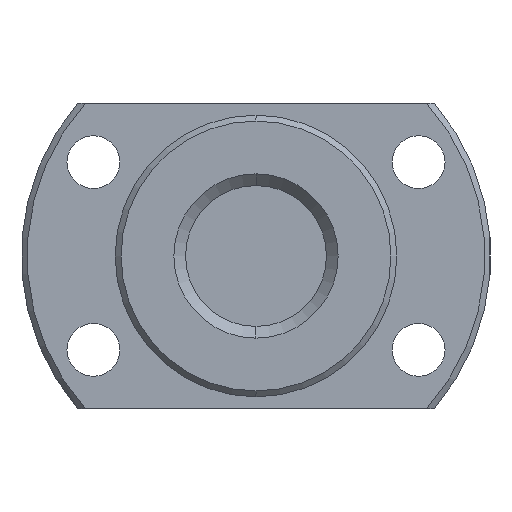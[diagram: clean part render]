
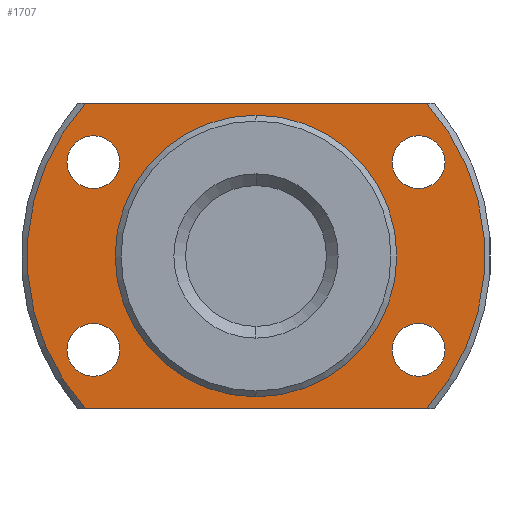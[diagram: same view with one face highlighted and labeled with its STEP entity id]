
A CAD part, left-side view. The second image highlights one B-rep face of the part: STEP entity #1707.
In plain terms, the highlighted planar face has unit normal (-1, 0, 0) as drawn and (1, 0, 0) by its records, which use the part's own axes.
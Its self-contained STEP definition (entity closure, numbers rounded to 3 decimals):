
#2 = EDGE_LOOP ( 'NONE', ( #1019, #780 ) ) ;
#16 = CARTESIAN_POINT ( 'NONE',  ( 8., 13.856, -5.75 ) ) ;
#18 = VERTEX_POINT ( 'NONE', #973 ) ;
#34 = AXIS2_PLACEMENT_3D ( 'NONE', #1402, #1129, #1681 ) ;
#54 = CARTESIAN_POINT ( 'NONE',  ( 8., 13.856, -10.25 ) ) ;
#111 = ORIENTED_EDGE ( 'NONE', *, *, #870, .T. ) ;
#115 = CARTESIAN_POINT ( 'NONE',  ( 8., 0., -12. ) ) ;
#134 = ORIENTED_EDGE ( 'NONE', *, *, #1159, .T. ) ;
#141 = ORIENTED_EDGE ( 'NONE', *, *, #988, .T. ) ;
#165 = ORIENTED_EDGE ( 'NONE', *, *, #1169, .T. ) ;
#170 = DIRECTION ( 'NONE',  ( 0., 1., 0. ) ) ;
#173 = CIRCLE ( 'NONE', #34, 12. ) ;
#181 = AXIS2_PLACEMENT_3D ( 'NONE', #1236, #1532, #350 ) ;
#188 = DIRECTION ( 'NONE',  ( 0., 0., -1. ) ) ;
#198 = CIRCLE ( 'NONE', #616, 2.25 ) ;
#227 = DIRECTION ( 'NONE',  ( 0., 0., -1. ) ) ;
#236 = AXIS2_PLACEMENT_3D ( 'NONE', #280, #1349, #1500 ) ;
#240 = CARTESIAN_POINT ( 'NONE',  ( 8., -13.856, 10.25 ) ) ;
#271 = DIRECTION ( 'NONE',  ( 1., 0., 0. ) ) ;
#280 = CARTESIAN_POINT ( 'NONE',  ( 8., 0., 0. ) ) ;
#288 = EDGE_CURVE ( 'NONE', #1345, #1205, #289, .T. ) ;
#289 = LINE ( 'NONE', #930, #781 ) ;
#319 = VERTEX_POINT ( 'NONE', #16 ) ;
#350 = DIRECTION ( 'NONE',  ( 0., 1., 0. ) ) ;
#375 = EDGE_LOOP ( 'NONE', ( #134, #576, #764, #660 ) ) ;
#379 = CARTESIAN_POINT ( 'NONE',  ( 8., 0., 0. ) ) ;
#404 = CARTESIAN_POINT ( 'NONE',  ( 8., -15.805, -6.875 ) ) ;
#439 = CARTESIAN_POINT ( 'NONE',  ( 8., -11.908, -9.125 ) ) ;
#447 = CARTESIAN_POINT ( 'NONE',  ( 8., 13.856, -8. ) ) ;
#466 = AXIS2_PLACEMENT_3D ( 'NONE', #1460, #1688, #1322 ) ;
#471 = DIRECTION ( 'NONE',  ( 0., 0., -1. ) ) ;
#474 = AXIS2_PLACEMENT_3D ( 'NONE', #1224, #575, #188 ) ;
#487 = CARTESIAN_POINT ( 'NONE',  ( 8., 14.534, 13. ) ) ;
#512 = CIRCLE ( 'NONE', #236, 19.5 ) ;
#522 = CIRCLE ( 'NONE', #1704, 2.25 ) ;
#529 = AXIS2_PLACEMENT_3D ( 'NONE', #1579, #1037, #574 ) ;
#555 = VERTEX_POINT ( 'NONE', #1253 ) ;
#574 = DIRECTION ( 'NONE',  ( 0., 0., -1. ) ) ;
#575 = DIRECTION ( 'NONE',  ( -1., 0., 0. ) ) ;
#576 = ORIENTED_EDGE ( 'NONE', *, *, #288, .T. ) ;
#586 = CARTESIAN_POINT ( 'NONE',  ( 8., -14.534, 13. ) ) ;
#594 = FACE_BOUND ( 'NONE', #1636, .T. ) ;
#611 = CARTESIAN_POINT ( 'NONE',  ( 8., 13.856, -8. ) ) ;
#613 = VERTEX_POINT ( 'NONE', #404 ) ;
#616 = AXIS2_PLACEMENT_3D ( 'NONE', #743, #1395, #471 ) ;
#617 = FACE_BOUND ( 'NONE', #951, .T. ) ;
#628 = DIRECTION ( 'NONE',  ( 0., 0., -1. ) ) ;
#660 = ORIENTED_EDGE ( 'NONE', *, *, #849, .T. ) ;
#661 = CARTESIAN_POINT ( 'NONE',  ( 8., 0., 0. ) ) ;
#716 = DIRECTION ( 'NONE',  ( -1., 0., 0. ) ) ;
#743 = CARTESIAN_POINT ( 'NONE',  ( 8., -13.856, 8. ) ) ;
#753 = CIRCLE ( 'NONE', #1359, 2.25 ) ;
#764 = ORIENTED_EDGE ( 'NONE', *, *, #1577, .T. ) ;
#780 = ORIENTED_EDGE ( 'NONE', *, *, #1462, .F. ) ;
#781 = VECTOR ( 'NONE', #1068, 1000. ) ;
#798 = CARTESIAN_POINT ( 'NONE',  ( 8., -14.534, -13. ) ) ;
#801 = EDGE_CURVE ( 'NONE', #842, #613, #1416, .T. ) ;
#814 = EDGE_CURVE ( 'NONE', #1690, #319, #1552, .T. ) ;
#817 = LINE ( 'NONE', #840, #1634 ) ;
#840 = CARTESIAN_POINT ( 'NONE',  ( 8., 12., -13. ) ) ;
#842 = VERTEX_POINT ( 'NONE', #439 ) ;
#849 = EDGE_CURVE ( 'NONE', #1080, #1653, #817, .T. ) ;
#851 = FACE_BOUND ( 'NONE', #1215, .T. ) ;
#870 = EDGE_CURVE ( 'NONE', #555, #1077, #881, .T. ) ;
#881 = CIRCLE ( 'NONE', #1306, 2.25 ) ;
#900 = ORIENTED_EDGE ( 'NONE', *, *, #1032, .T. ) ;
#924 = AXIS2_PLACEMENT_3D ( 'NONE', #379, #271, #1549 ) ;
#930 = CARTESIAN_POINT ( 'NONE',  ( 8., 12., 13. ) ) ;
#951 = EDGE_LOOP ( 'NONE', ( #111, #141 ) ) ;
#956 = EDGE_CURVE ( 'NONE', #1455, #18, #173, .T. ) ;
#971 = EDGE_LOOP ( 'NONE', ( #1386, #165 ) ) ;
#973 = CARTESIAN_POINT ( 'NONE',  ( 8., 0., 12. ) ) ;
#988 = EDGE_CURVE ( 'NONE', #1077, #555, #198, .T. ) ;
#1005 = FACE_BOUND ( 'NONE', #2, .T. ) ;
#1019 = ORIENTED_EDGE ( 'NONE', *, *, #956, .F. ) ;
#1032 = EDGE_CURVE ( 'NONE', #1698, #1287, #1501, .T. ) ;
#1037 = DIRECTION ( 'NONE',  ( -1., 0., 0. ) ) ;
#1040 = CIRCLE ( 'NONE', #466, 2.25 ) ;
#1068 = DIRECTION ( 'NONE',  ( 0., -1., 0. ) ) ;
#1071 = ORIENTED_EDGE ( 'NONE', *, *, #814, .T. ) ;
#1074 = EDGE_CURVE ( 'NONE', #1287, #1698, #1040, .T. ) ;
#1077 = VERTEX_POINT ( 'NONE', #240 ) ;
#1080 = VERTEX_POINT ( 'NONE', #798 ) ;
#1084 = DIRECTION ( 'NONE',  ( 0., 0., -1. ) ) ;
#1122 = CIRCLE ( 'NONE', #1265, 19.5 ) ;
#1129 = DIRECTION ( 'NONE',  ( 1., 0., 0. ) ) ;
#1135 = CARTESIAN_POINT ( 'NONE',  ( 8., 11.908, 9.125 ) ) ;
#1159 = EDGE_CURVE ( 'NONE', #1653, #1345, #1122, .T. ) ;
#1161 = AXIS2_PLACEMENT_3D ( 'NONE', #447, #1631, #1084 ) ;
#1169 = EDGE_CURVE ( 'NONE', #613, #842, #522, .T. ) ;
#1205 = VERTEX_POINT ( 'NONE', #586 ) ;
#1215 = EDGE_LOOP ( 'NONE', ( #1667, #1071 ) ) ;
#1224 = CARTESIAN_POINT ( 'NONE',  ( 8., -13.856, -8. ) ) ;
#1236 = CARTESIAN_POINT ( 'NONE',  ( 8., 12., 0. ) ) ;
#1253 = CARTESIAN_POINT ( 'NONE',  ( 8., -13.856, 5.75 ) ) ;
#1265 = AXIS2_PLACEMENT_3D ( 'NONE', #661, #1589, #1380 ) ;
#1283 = CARTESIAN_POINT ( 'NONE',  ( 8., 15.805, 6.875 ) ) ;
#1287 = VERTEX_POINT ( 'NONE', #1283 ) ;
#1303 = EDGE_CURVE ( 'NONE', #319, #1690, #753, .T. ) ;
#1306 = AXIS2_PLACEMENT_3D ( 'NONE', #1381, #716, #628 ) ;
#1322 = DIRECTION ( 'NONE',  ( 0., 0., -1. ) ) ;
#1345 = VERTEX_POINT ( 'NONE', #487 ) ;
#1349 = DIRECTION ( 'NONE',  ( 1., 0., 0. ) ) ;
#1359 = AXIS2_PLACEMENT_3D ( 'NONE', #611, #1387, #227 ) ;
#1361 = CARTESIAN_POINT ( 'NONE',  ( 8., -13.856, -8. ) ) ;
#1377 = PLANE ( 'NONE',  #181 ) ;
#1380 = DIRECTION ( 'NONE',  ( 0., 0., -1. ) ) ;
#1381 = CARTESIAN_POINT ( 'NONE',  ( 8., -13.856, 8. ) ) ;
#1386 = ORIENTED_EDGE ( 'NONE', *, *, #801, .T. ) ;
#1387 = DIRECTION ( 'NONE',  ( -1., 0., 0. ) ) ;
#1395 = DIRECTION ( 'NONE',  ( -1., 0., 0. ) ) ;
#1402 = CARTESIAN_POINT ( 'NONE',  ( 8., 0., 0. ) ) ;
#1416 = CIRCLE ( 'NONE', #474, 2.25 ) ;
#1455 = VERTEX_POINT ( 'NONE', #115 ) ;
#1460 = CARTESIAN_POINT ( 'NONE',  ( 8., 13.856, 8. ) ) ;
#1462 = EDGE_CURVE ( 'NONE', #18, #1455, #1538, .T. ) ;
#1477 = CARTESIAN_POINT ( 'NONE',  ( 8., 14.534, -13. ) ) ;
#1488 = DIRECTION ( 'NONE',  ( 0., 0., -1. ) ) ;
#1500 = DIRECTION ( 'NONE',  ( 0., 0., -1. ) ) ;
#1501 = CIRCLE ( 'NONE', #529, 2.25 ) ;
#1503 = DIRECTION ( 'NONE',  ( -1., 0., 0. ) ) ;
#1532 = DIRECTION ( 'NONE',  ( 1., 0., 0. ) ) ;
#1538 = CIRCLE ( 'NONE', #924, 12. ) ;
#1549 = DIRECTION ( 'NONE',  ( 0., 0., -1. ) ) ;
#1552 = CIRCLE ( 'NONE', #1161, 2.25 ) ;
#1560 = ORIENTED_EDGE ( 'NONE', *, *, #1074, .T. ) ;
#1577 = EDGE_CURVE ( 'NONE', #1205, #1080, #512, .T. ) ;
#1579 = CARTESIAN_POINT ( 'NONE',  ( 8., 13.856, 8. ) ) ;
#1589 = DIRECTION ( 'NONE',  ( 1., 0., 0. ) ) ;
#1631 = DIRECTION ( 'NONE',  ( -1., 0., 0. ) ) ;
#1634 = VECTOR ( 'NONE', #170, 1000. ) ;
#1635 = FACE_BOUND ( 'NONE', #971, .T. ) ;
#1636 = EDGE_LOOP ( 'NONE', ( #900, #1560 ) ) ;
#1652 = FACE_OUTER_BOUND ( 'NONE', #375, .T. ) ;
#1653 = VERTEX_POINT ( 'NONE', #1477 ) ;
#1667 = ORIENTED_EDGE ( 'NONE', *, *, #1303, .T. ) ;
#1681 = DIRECTION ( 'NONE',  ( 0., 0., -1. ) ) ;
#1688 = DIRECTION ( 'NONE',  ( -1., 0., 0. ) ) ;
#1690 = VERTEX_POINT ( 'NONE', #54 ) ;
#1698 = VERTEX_POINT ( 'NONE', #1135 ) ;
#1704 = AXIS2_PLACEMENT_3D ( 'NONE', #1361, #1503, #1488 ) ;
#1707 = ADVANCED_FACE ( 'NONE', ( #1652, #1005, #851, #617, #1635, #594 ), #1377, .T. ) ;
